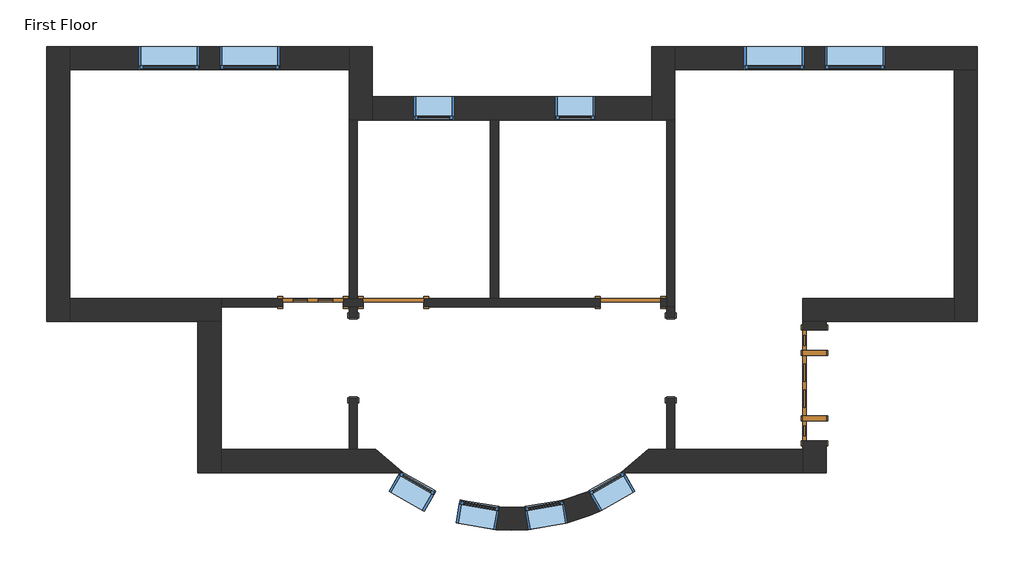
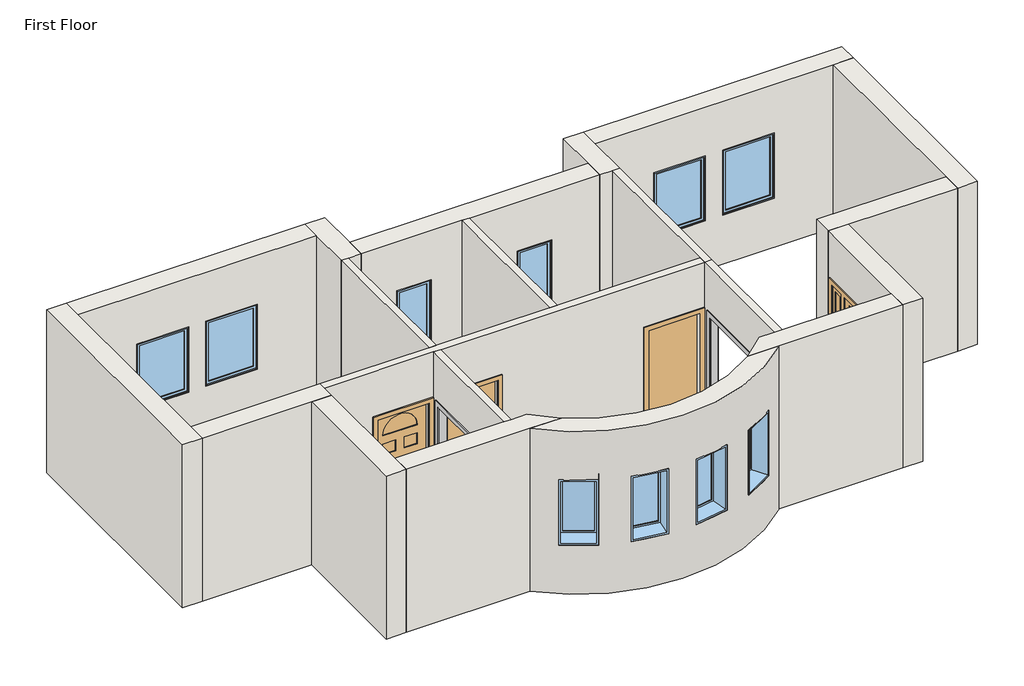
# One storey: 20 walls, 10 windows, 4 doors, 2 proxies.
"""IFC4 building model written with IfcOpenShell, lengths in millimetres."""

from ifc_helpers import new_model, si_unit, frame, origin, origin_with_axes, place, context, project, spatial, polyline, circle_curve, outline, extrude, faceted_brep, transform, mapped, element, save
from ifc_brep_helpers import plane_surface, cylinder_surface, revolved_surface, advanced_brep
from components import proxy_f44482cc, door_2e3b4da2, door_a1797ceb, door_a3eb833a, door_dba5aa2e, window_60baf983, window_ed80354a, window_15c49d37

model = new_model("IFC4")

# Units and contexts
model_context = context("Model", 3, world=origin())
ifc_project = project(units=[si_unit("LENGTHUNIT", "METRE", prefix="MILLI")], contexts=[model_context])

# Site, building, storey
site = spatial("IfcSite", under=ifc_project)
building = spatial("IfcBuilding", under=site)
storey = spatial("IfcBuildingStorey", under=building, Name="First Floor", Elevation=0.0)

# Proxies
placement = place(None, origin())
proxy_shape = proxy_f44482cc(model_context)
element("IfcBuildingElementProxy", 1, Name="Opening-Cased : 48\" x 84\"", ObjectType="Opening-Cased : 48\" x 84\"", at=placement, inside=storey, context=model_context, shape_type="MappedRepresentation", body=[
    mapped(proxy_shape, transform((-732.7404149, 8023.3246014, 0.0), x_axis=(0.0, -1.0, 0.0), y_axis=(1.0, 0.0, 0.0), z_axis=(0.0, 0.0, 1.0))),
])
element("IfcBuildingElementProxy", 2, Name="Opening-Cased : 48\" x 84\"", ObjectType="Opening-Cased : 48\" x 84\"", at=placement, inside=storey, context=model_context, shape_type="MappedRepresentation", body=[
    mapped(proxy_shape, transform((4064.6845851, 8039.7019148, 0.0), x_axis=(0.0, 1.0, 0.0), y_axis=(-1.0, 0.0, 0.0), z_axis=(0.0, 0.0, 1.0))),
])

# Doors
door_shape = door_2e3b4da2(model_context)
element("IfcDoor", 3, ObjectType="Single-Decorative 2 : 36\" x 84\"", at=placement, inside=storey, context=model_context, shape_type="MappedRepresentation", body=[
    mapped(door_shape, transform((-1342.3404149, 8869.7132581, 0.0), x_axis=(1.0, 0.0, 0.0), y_axis=(0.0, 1.0, 0.0), z_axis=(0.0, 0.0, 1.0))),
])
door_2_shape = door_a1797ceb(model_context)
element("IfcDoor", 4, ObjectType="Single-Flush : 36\" x 84\"", at=placement, inside=storey, context=model_context, shape_type="MappedRepresentation", body=[
    mapped(door_2_shape, transform((3455.0845851, 8869.7132581, 0.0), x_axis=(1.0, 0.0, 0.0), y_axis=(0.0, 1.0, 0.0), z_axis=(0.0, 0.0, 1.0))),
])
door_3_shape = door_a3eb833a(model_context)
element("IfcDoor", 5, ObjectType="Single-Flush : 36\" x 84\"", at=placement, inside=storey, context=model_context, shape_type="MappedRepresentation", body=[
    mapped(door_3_shape, transform((-123.1404149, 8869.7132581, 0.0), x_axis=(-1.0, 0.0, 0.0), y_axis=(0.0, -1.0, 0.0), z_axis=(0.0, 0.0, 1.0))),
])
door_4_shape = door_dba5aa2e(model_context)
element("IfcDoor", 6, ObjectType="Single-Raised Panel with Sidelights : 36\" x 84\"", at=placement, inside=storey, context=model_context, shape_type="MappedRepresentation", body=[
    mapped(door_4_shape, transform((6237.9720851, 7614.0007581, 0.0), x_axis=(0.0, -1.0, 0.0), y_axis=(1.0, 0.0, 0.0), z_axis=(0.0, 0.0, 1.0))),
])

# Walls
element("IfcWall", 7, ObjectType="Exterior - Brick on Mtl. Stud", at=placement, inside=storey, context=model_context, shape_type="Brep", body=[
    faceted_brep([(8347.7595851, 12390.7882581, 0.0), (8347.7595851, 8933.2132581, 0.0), (8347.7595851, 8580.7882581, 0.0), (8347.7595851, 8580.7882581, 3048.0), (8347.7595851, 8933.2132581, 3048.0), (8347.7595851, 12390.7882581, 3048.0), (8700.1845851, 12390.7882581, 0.0), (8700.1845851, 12390.7882581, 3048.0), (8700.1845851, 8580.7882581, 3048.0), (8700.1845851, 8580.7882581, 0.0)], [[[0, 1, 2, 3, 4, 5]], [[6, 7, 8, 9]], [[2, 1, 0, 6, 9]], [[5, 4, 3, 8, 7]], [[3, 2, 9, 8]], [[0, 5, 7, 6]]]),
])
element("IfcWall", 8, ObjectType="Exterior - Brick on Mtl. Stud", at=placement, inside=storey, context=model_context, shape_type="Brep", body=[
    faceted_brep([(8347.7595851, 8933.2132581, 0.0), (6061.7595851, 8933.2132581, 0.0), (6061.7595851, 8933.2132581, 3048.0), (8347.7595851, 8933.2132581, 3048.0), (8347.7595851, 8580.7882581, 0.0), (8347.7595851, 8580.7882581, 3048.0), (6414.1845851, 8580.7882581, 3048.0), (6061.7595851, 8580.7882581, 3048.0), (6061.7595851, 8580.7882581, 0.0), (6414.1845851, 8580.7882581, 0.0)], [[[0, 1, 2, 3]], [[4, 5, 6, 7, 8, 9]], [[1, 0, 4, 9, 8]], [[3, 2, 7, 6, 5]], [[2, 1, 8, 7]], [[0, 3, 5, 4]]]),
])
element("IfcWall", 9, ObjectType="Exterior - Brick on Mtl. Stud", at=placement, inside=storey, context=model_context, shape_type="Brep", body=[
    faceted_brep([(6061.7595851, 6775.8007581, 2133.6), (6061.7595851, 6775.8007581, 0.0), (6061.7595851, 6647.2132581, 0.0), (6061.7595851, 6294.7882581, 0.0), (6061.7595851, 6294.7882581, 3048.0), (6061.7595851, 6647.2132581, 3048.0), (6061.7595851, 8580.7882581, 3048.0), (6061.7595851, 8580.7882581, 0.0), (6061.7595851, 8452.2007581, 0.0), (6061.7595851, 8452.2007581, 2133.6), (6414.1845851, 6294.7882581, 0.0), (6414.1845851, 6775.8007581, 0.0), (6414.1845851, 6775.8007581, 2133.6), (6414.1845851, 8452.2007581, 2133.6), (6414.1845851, 8452.2007581, 0.0), (6414.1845851, 8580.7882581, 0.0), (6414.1845851, 8580.7882581, 3048.0), (6414.1845851, 6294.7882581, 3048.0)], [[[0, 1, 2, 3, 4, 5, 6, 7, 8, 9]], [[10, 11, 12, 13, 14, 15, 16, 17]], [[3, 2, 1, 11, 10]], [[8, 7, 15, 14]], [[6, 5, 4, 17, 16]], [[4, 3, 10, 17]], [[7, 6, 16, 15]], [[12, 11, 1, 0]], [[13, 12, 0, 9]], [[14, 13, 9, 8]]]),
])
element("IfcWall", 10, ObjectType="Exterior - Brick on Mtl. Stud", at=placement, inside=storey, context=model_context, shape_type="AdvancedBrep", body=[
    advanced_brep(
    [(6061.7595851, 6647.2132581, 0.0), (4128.1845851, 6647.2132581, 0.0), (4001.1845851, 6647.2132581, 0.0), (3726.3564328, 6647.2132581, 0.0), (3726.3564328, 6647.2132581, 3048.0), (4001.1845851, 6647.2132581, 3048.0), (4128.1845851, 6647.2132581, 3048.0), (6061.7595851, 6647.2132581, 3048.0), (3312.4627349, 6294.7882581, 0.0), (3870.3573191, 6294.7882581, 0.0), (6061.7595851, 6294.7882581, 0.0), (6061.7595851, 6294.7882581, 3048.0), (3870.3573191, 6294.7882581, 3048.0), (3312.4627349, 6294.7882581, 3048.0), (3312.4627349, 6294.7882581, 2133.6), (3361.7509829, 6294.7882581, 2133.6), (3361.7509829, 6294.7882581, 914.4), (3312.4627349, 6294.7882581, 914.4), (3320.3742367, 6300.3443098, 914.4), (3320.3742367, 6300.3443098, 2133.6), (3349.1702511, 6316.8014694, 914.4), (3349.1702511, 6316.8014694, 2133.6)],
    [
        (0, 1),
        (1, 2),
        (2, 3),
        (3, 4),
        (4, 5),
        (5, 6),
        (6, 7),
        (7, 0),
        (8, 9),
        (9, 10),
        (10, 11),
        (11, 12),
        (12, 13),
        (13, 14),
        (14, 15),
        (15, 16),
        (16, 17),
        (17, 8),
        (0, 10),
        (8, 3, circle_curve(frame((1665.9720851, 8647.7081431, 0.0), z_axis=(0.0, 0.0, 1.0), x_axis=(1.0, 0.0, 0.0)), 2871.7875)),
        (4, 13, circle_curve(frame((1665.9720851, 8647.7081431, 3048.0), z_axis=(0.0, 0.0, -1.0), x_axis=(1.0, 0.0, 0.0)), 2871.7875)),
        (11, 7),
        (17, 18, circle_curve(frame((1665.9720851, 8647.7081431, 914.4), z_axis=(0.0, 0.0, 1.0), x_axis=(1.0, 0.0, 0.0)), 2871.7875)),
        (18, 19),
        (19, 14, circle_curve(frame((1665.9720851, 8647.7081431, 2133.6), z_axis=(0.0, 0.0, -1.0), x_axis=(1.0, 0.0, 0.0)), 2871.7875)),
        (20, 21),
        (21, 19),
        (18, 20),
        (16, 20),
        (15, 21),
    ],
    [
        plane_surface(frame((6237.9720851, 6647.2132581, 0.0), z_axis=(0.0, 1.0, 0.0), x_axis=(-1.0, 0.0, 0.0))),
        plane_surface(frame((6237.9720851, 6294.7882581, 0.0), z_axis=(0.0, -1.0, 0.0), x_axis=(1.0, 0.0, 0.0))),
        plane_surface(frame((6237.9720851, 6647.2132581, 0.0), z_axis=(0.0, 0.0, -1.0), x_axis=(0.0, -1.0, 0.0))),
        plane_surface(frame((3799.5720851, 6647.2132581, 3048.0), z_axis=(0.0, 0.0, 1.0), x_axis=(0.0, -1.0, 0.0))),
        revolved_surface(polyline([(4537.7595851, 8647.7081431, 0.0), (4537.7595851, 8647.7081431, 3048.0)]), (1665.9720851, 8647.7081431, 0.0), (0.0, 0.0, -1.0)),
        plane_surface(frame((6061.7595851, 8757.0007581, 0.0), z_axis=(1.0, 0.0, 0.0), x_axis=(0.0, -1.0, 0.0))),
        plane_surface(frame((2819.9073972, 6014.3233852, 2133.6), z_axis=(0.49619108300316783, -0.8682133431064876, 0.0), x_axis=(0.0, 0.0, 1.0))),
        plane_surface(frame((2993.993531, 5709.7151216, 914.4), z_axis=(0.0, 0.0, 1.0000000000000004), x_axis=(-0.4961910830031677, 0.8682133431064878, 0.0))),
        plane_surface(frame((3523.2563849, 6012.1932058, 914.4), z_axis=(-0.8682133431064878, -0.4961910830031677, 0.0), x_axis=(-0.4961910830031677, 0.8682133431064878, 0.0))),
        plane_surface(frame((3523.2563849, 6012.1932058, 2133.6), z_axis=(0.0, 0.0, -1.0000000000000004), x_axis=(-0.4961910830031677, 0.8682133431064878, 0.0))),
    ],
    [
        (0, [[1, 2, 3, 4, 5, 6, 7, 8]]),
        (1, [[9, 10, 11, 12, 13, 14, 15, 16, 17, 18]]),
        (2, [[-3, -2, -1, 19, -10, -9, 20]]),
        (3, [[-7, -6, -5, 21, -13, -12, 22]]),
        (4, [[-4, -20, -18, 23, 24, 25, -14, -21]]),
        (5, [[-8, -22, -11, -19]]),
        (6, [[26, 27, -24, 28]]),
        (7, [[-28, -23, -17, 29]]),
        (8, [[-26, -29, -16, 30]]),
        (9, [[-27, -30, -15, -25]]),
    ],
),
])
element("IfcWall", 11, ObjectType="Exterior - Brick on Mtl. Stud", at=placement, inside=storey, context=model_context, shape_type="Brep", body=[
    faceted_brep([(-5368.2404149, 12743.2132581, 0.0), (-5368.2404149, 8580.7882581, 0.0), (-5368.2404149, 8580.7882581, 3048.0), (-5368.2404149, 12743.2132581, 3048.0), (-5015.8154149, 12743.2132581, 0.0), (-5015.8154149, 12743.2132581, 3048.0), (-5015.8154149, 12390.7882581, 3048.0), (-5015.8154149, 8933.2132581, 3048.0), (-5015.8154149, 8580.7882581, 3048.0), (-5015.8154149, 8580.7882581, 0.0), (-5015.8154149, 8933.2132581, 0.0), (-5015.8154149, 12390.7882581, 0.0)], [[[0, 1, 2, 3]], [[4, 5, 6, 7, 8, 9, 10, 11]], [[1, 0, 4, 11, 10, 9]], [[3, 2, 8, 7, 6, 5]], [[2, 1, 9, 8]], [[0, 3, 5, 4]]]),
])
element("IfcWall", 12, ObjectType="Exterior - Brick on Mtl. Stud", at=placement, inside=storey, context=model_context, shape_type="Brep", body=[
    faceted_brep([(-5015.8154149, 8580.7882581, 0.0), (-3082.2404149, 8580.7882581, 0.0), (-2729.8154149, 8580.7882581, 0.0), (-2729.8154149, 8580.7882581, 3048.0), (-3082.2404149, 8580.7882581, 3048.0), (-5015.8154149, 8580.7882581, 3048.0), (-5015.8154149, 8933.2132581, 0.0), (-5015.8154149, 8933.2132581, 3048.0), (-2729.8154149, 8933.2132581, 3048.0), (-2729.8154149, 8933.2132581, 0.0), (-2729.8154149, 8806.2132581, 0.0), (-2729.8154149, 8806.2132581, 3048.0)], [[[0, 1, 2, 3, 4, 5]], [[6, 7, 8, 9]], [[2, 1, 0, 6, 9, 10]], [[5, 4, 3, 11, 8, 7]], [[3, 2, 10, 9, 8, 11]], [[0, 5, 7, 6]]]),
])
element("IfcWall", 13, ObjectType="Exterior - Brick on Mtl. Stud", at=placement, inside=storey, context=model_context, shape_type="Brep", body=[
    faceted_brep([(-3082.2404149, 8580.7882581, 0.0), (-3082.2404149, 6294.7882581, 0.0), (-3082.2404149, 6294.7882581, 3048.0), (-3082.2404149, 8580.7882581, 3048.0), (-2729.8154149, 8580.7882581, 0.0), (-2729.8154149, 8580.7882581, 3048.0), (-2729.8154149, 6647.2132581, 3048.0), (-2729.8154149, 6294.7882581, 3048.0), (-2729.8154149, 6294.7882581, 0.0), (-2729.8154149, 6647.2132581, 0.0)], [[[0, 1, 2, 3]], [[4, 5, 6, 7, 8, 9]], [[1, 0, 4, 9, 8]], [[3, 2, 7, 6, 5]], [[2, 1, 8, 7]], [[0, 3, 5, 4]]]),
])
element("IfcWall", 14, ObjectType="Exterior - Brick on Mtl. Stud", at=placement, inside=storey, context=model_context, shape_type="AdvancedBrep", body=[
    advanced_brep(
    [(-2729.8154149, 6294.7882581, 0.0), (-538.4131488, 6294.7882581, 0.0), (19.4814354, 6294.7882581, 0.0), (19.4814354, 6294.7882581, 914.4), (-29.8068126, 6294.7882581, 914.4), (-29.8068126, 6294.7882581, 2133.6), (19.4814354, 6294.7882581, 2133.6), (19.4814354, 6294.7882581, 3048.0), (-538.4131488, 6294.7882581, 3048.0), (-2729.8154149, 6294.7882581, 3048.0), (-394.4122625, 6647.2132581, 0.0), (-669.2404149, 6647.2132581, 0.0), (-796.2404149, 6647.2132581, 0.0), (-2729.8154149, 6647.2132581, 0.0), (-2729.8154149, 6647.2132581, 3048.0), (-796.2404149, 6647.2132581, 3048.0), (-669.2404149, 6647.2132581, 3048.0), (-394.4122625, 6647.2132581, 3048.0), (11.5699336, 6300.3443098, 2133.6), (11.5699336, 6300.3443098, 914.4), (-17.2260808, 6316.8014694, 2133.6), (-17.2260808, 6316.8014694, 914.4)],
    [
        (0, 1),
        (1, 2),
        (2, 3),
        (3, 4),
        (4, 5),
        (5, 6),
        (6, 7),
        (7, 8),
        (8, 9),
        (9, 0),
        (10, 11),
        (11, 12),
        (12, 13),
        (13, 14),
        (14, 15),
        (15, 16),
        (16, 17),
        (17, 10),
        (0, 13),
        (10, 2, circle_curve(frame((1665.9720851, 8647.7081431, 0.0), z_axis=(0.0, 0.0, 1.0), x_axis=(1.0, 0.0, 0.0)), 2871.7875)),
        (7, 17, circle_curve(frame((1665.9720851, 8647.7081431, 3048.0), z_axis=(0.0, 0.0, -1.0), x_axis=(1.0, 0.0, 0.0)), 2871.7875)),
        (14, 9),
        (6, 18, circle_curve(frame((1665.9720851, 8647.7081431, 2133.6), z_axis=(0.0, 0.0, -1.0), x_axis=(1.0, 0.0, 0.0)), 2871.7875)),
        (18, 19),
        (19, 3, circle_curve(frame((1665.9720851, 8647.7081431, 914.4), z_axis=(0.0, 0.0, 1.0), x_axis=(1.0, 0.0, 0.0)), 2871.7875)),
        (20, 21),
        (21, 19),
        (18, 20),
        (21, 4),
        (20, 5),
    ],
    [
        plane_surface(frame((-2906.0279149, 6294.7882581, 0.0), z_axis=(0.0, -1.0, 0.0), x_axis=(1.0, 0.0, 0.0))),
        plane_surface(frame((-2906.0279149, 6647.2132581, 0.0), z_axis=(0.0, 1.0, 0.0), x_axis=(-1.0, 0.0, 0.0))),
        plane_surface(frame((-2906.0279149, 6294.7882581, 0.0), z_axis=(0.0, 0.0, -1.0), x_axis=(0.0, 1.0, 0.0))),
        plane_surface(frame((-467.6279149, 6294.7882581, 3048.0), z_axis=(0.0, 0.0, 1.0), x_axis=(0.0, 1.0, 0.0))),
        revolved_surface(polyline([(4537.7595851, 8647.7081431, 0.0), (4537.7595851, 8647.7081431, 3048.0)]), (1665.9720851, 8647.7081431, 0.0), (0.0, 0.0, -1.0)),
        plane_surface(frame((-2729.8154149, 8757.0007581, 0.0), z_axis=(-1.0, 0.0, 0.0), x_axis=(0.0, 1.0, 0.0))),
        plane_surface(frame((512.0367731, 6014.3233852, 2133.6), z_axis=(-0.4961910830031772, -0.8682133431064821, 0.0), x_axis=(0.0, 0.0, -1.0))),
        plane_surface(frame((512.0367731, 6014.3233852, 914.4), z_axis=(0.0, 0.0, 1.0000000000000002), x_axis=(-0.49619108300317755, -0.8682133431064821, 0.0))),
        plane_surface(frame((-17.2260808, 6316.8014694, 914.4), z_axis=(0.8682133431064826, -0.4961910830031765, 0.0), x_axis=(-0.4961910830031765, -0.8682133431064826, 0.0))),
        plane_surface(frame((-17.2260808, 6316.8014694, 2133.6), z_axis=(0.0, 0.0, -1.0), x_axis=(-0.4961910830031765, -0.8682133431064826, 0.0))),
    ],
    [
        (0, [[1, 2, 3, 4, 5, 6, 7, 8, 9, 10]]),
        (1, [[11, 12, 13, 14, 15, 16, 17, 18]]),
        (2, [[-2, -1, 19, -13, -12, -11, 20]]),
        (3, [[-9, -8, 21, -17, -16, -15, 22]]),
        (4, [[-20, -18, -21, -7, 23, 24, 25, -3]]),
        (5, [[-10, -22, -14, -19]]),
        (6, [[26, 27, -24, 28]]),
        (7, [[-27, 29, -4, -25]]),
        (8, [[-26, 30, -5, -29]]),
        (9, [[-28, -23, -6, -30]]),
    ],
),
])
element("IfcWall", 15, ObjectType="Exterior - Brick on Mtl. Stud", at=placement, inside=storey, context=model_context, shape_type="SweptSolid", body=[
    extrude(outline(polyline([(0.0, -5015.8154149), (0.0, -796.2404149), (3048.0, -796.2404149), (3048.0, -5015.8154149), (0.0, -5015.8154149)]), holes=[polyline([(2133.6, -3972.8279149), (2133.6, -3058.4279149), (914.4, -3058.4279149), (914.4, -3972.8279149), (2133.6, -3972.8279149)]), polyline([(2133.6, -2753.6279149), (2133.6, -1839.2279149), (914.4, -1839.2279149), (914.4, -2753.6279149), (2133.6, -2753.6279149)])]), frame((0.0, 12390.7882581, 0.0), z_axis=(0.0, 1.0, 0.0), x_axis=(0.0, 0.0, 1.0)), (0.0, 0.0, 1.0), 352.425),
])
element("IfcWall", 16, ObjectType="Exterior - Brick on Mtl. Stud", at=placement, inside=storey, context=model_context, shape_type="Brep", body=[
    faceted_brep([(-796.2404149, 12743.2132581, 0.0), (-796.2404149, 12390.7882581, 0.0), (-796.2404149, 11628.7882581, 0.0), (-796.2404149, 11628.7882581, 3048.0), (-796.2404149, 12390.7882581, 3048.0), (-796.2404149, 12743.2132581, 3048.0), (-443.8154149, 12743.2132581, 0.0), (-443.8154149, 12743.2132581, 3048.0), (-443.8154149, 11981.2132581, 3048.0), (-443.8154149, 11628.7882581, 3048.0), (-443.8154149, 11628.7882581, 0.0), (-443.8154149, 11981.2132581, 0.0), (-669.2404149, 11628.7882581, 0.0), (-669.2404149, 11628.7882581, 3048.0)], [[[0, 1, 2, 3, 4, 5]], [[6, 7, 8, 9, 10, 11]], [[2, 1, 0, 6, 11, 10, 12]], [[5, 4, 3, 13, 9, 8, 7]], [[0, 5, 7, 6]], [[3, 2, 12, 10, 9, 13]]]),
])
element("IfcWall", 17, ObjectType="Exterior - Brick on Mtl. Stud", at=placement, inside=storey, context=model_context, shape_type="Brep", body=[
    faceted_brep([(-443.8154149, 11628.7882581, 0.0), (1337.3595851, 11628.7882581, 0.0), (1464.3595851, 11628.7882581, 0.0), (3775.7595851, 11628.7882581, 0.0), (3775.7595851, 11628.7882581, 3048.0), (1464.3595851, 11628.7882581, 3048.0), (1337.3595851, 11628.7882581, 3048.0), (-443.8154149, 11628.7882581, 3048.0), (2315.2595851, 11628.7882581, 2133.6), (2924.8595851, 11628.7882581, 2133.6), (2924.8595851, 11628.7882581, 914.4), (2315.2595851, 11628.7882581, 914.4), (181.6595851, 11628.7882581, 2133.6), (791.2595851, 11628.7882581, 2133.6), (791.2595851, 11628.7882581, 914.4), (181.6595851, 11628.7882581, 914.4), (-443.8154149, 11981.2132581, 0.0), (-443.8154149, 11981.2132581, 3048.0), (3775.7595851, 11981.2132581, 3048.0), (3775.7595851, 11981.2132581, 0.0), (2315.2595851, 11981.2132581, 2133.6), (2315.2595851, 11981.2132581, 914.4), (2924.8595851, 11981.2132581, 914.4), (2924.8595851, 11981.2132581, 2133.6), (181.6595851, 11981.2132581, 2133.6), (181.6595851, 11981.2132581, 914.4), (791.2595851, 11981.2132581, 914.4), (791.2595851, 11981.2132581, 2133.6)], [[[0, 1, 2, 3, 4, 5, 6, 7], [8, 9, 10, 11], [12, 13, 14, 15]], [[16, 17, 18, 19], [20, 21, 22, 23], [24, 25, 26, 27]], [[3, 2, 1, 0, 16, 19]], [[7, 6, 5, 4, 18, 17]], [[0, 7, 17, 16]], [[4, 3, 19, 18]], [[21, 20, 8, 11]], [[22, 21, 11, 10]], [[23, 22, 10, 9]], [[20, 23, 9, 8]], [[25, 24, 12, 15]], [[26, 25, 15, 14]], [[27, 26, 14, 13]], [[24, 27, 13, 12]]]),
])
element("IfcWall", 18, ObjectType="Exterior - Brick on Mtl. Stud", at=placement, inside=storey, context=model_context, shape_type="Brep", body=[
    faceted_brep([(4128.1845851, 11628.7882581, 0.0), (4128.1845851, 12390.7882581, 0.0), (4128.1845851, 12743.2132581, 0.0), (4128.1845851, 12743.2132581, 3048.0), (4128.1845851, 12390.7882581, 3048.0), (4128.1845851, 11628.7882581, 3048.0), (3775.7595851, 11628.7882581, 0.0), (3775.7595851, 11628.7882581, 3048.0), (3775.7595851, 11981.2132581, 3048.0), (3775.7595851, 12743.2132581, 3048.0), (3775.7595851, 12743.2132581, 0.0), (3775.7595851, 11981.2132581, 0.0), (4001.1845851, 11628.7882581, 0.0), (4001.1845851, 11628.7882581, 3048.0)], [[[0, 1, 2, 3, 4, 5]], [[6, 7, 8, 9, 10, 11]], [[2, 1, 0, 12, 6, 11, 10]], [[5, 4, 3, 9, 8, 7, 13]], [[0, 5, 13, 7, 6, 12]], [[3, 2, 10, 9]]]),
])
element("IfcWall", 19, ObjectType="Exterior - Brick on Mtl. Stud", at=placement, inside=storey, context=model_context, shape_type="Brep", body=[
    faceted_brep([(4128.1845851, 12390.7882581, 0.0), (8347.7595851, 12390.7882581, 0.0), (8700.1845851, 12390.7882581, 0.0), (8700.1845851, 12390.7882581, 3048.0), (8347.7595851, 12390.7882581, 3048.0), (4128.1845851, 12390.7882581, 3048.0), (6390.3720851, 12390.7882581, 2133.6), (7304.7720851, 12390.7882581, 2133.6), (7304.7720851, 12390.7882581, 914.4), (6390.3720851, 12390.7882581, 914.4), (5171.1720851, 12390.7882581, 2133.6), (6085.5720851, 12390.7882581, 2133.6), (6085.5720851, 12390.7882581, 914.4), (5171.1720851, 12390.7882581, 914.4), (4128.1845851, 12743.2132581, 0.0), (4128.1845851, 12743.2132581, 3048.0), (8700.1845851, 12743.2132581, 3048.0), (8700.1845851, 12743.2132581, 0.0), (6390.3720851, 12743.2132581, 2133.6), (6390.3720851, 12743.2132581, 914.4), (7304.7720851, 12743.2132581, 914.4), (7304.7720851, 12743.2132581, 2133.6), (5171.1720851, 12743.2132581, 2133.6), (5171.1720851, 12743.2132581, 914.4), (6085.5720851, 12743.2132581, 914.4), (6085.5720851, 12743.2132581, 2133.6)], [[[0, 1, 2, 3, 4, 5], [6, 7, 8, 9], [10, 11, 12, 13]], [[14, 15, 16, 17], [18, 19, 20, 21], [22, 23, 24, 25]], [[2, 1, 0, 14, 17]], [[5, 4, 3, 16, 15]], [[3, 2, 17, 16]], [[0, 5, 15, 14]], [[19, 18, 6, 9]], [[20, 19, 9, 8]], [[21, 20, 8, 7]], [[18, 21, 7, 6]], [[23, 22, 10, 13]], [[24, 23, 13, 12]], [[25, 24, 12, 11]], [[22, 25, 11, 10]]]),
])
element("IfcWall", 20, ObjectType="Exterior - Brick on Mtl. Stud", at=placement, inside=storey, context=model_context, shape_type="AdvancedBrep", body=[
    advanced_brep(
    [(3312.4627349, 6294.7882581, 3048.0), (19.4814354, 6294.7882581, 3048.0), (-538.4131488, 6294.7882581, 3048.0), (3870.3573191, 6294.7882581, 3048.0), (19.4814354, 6294.7882581, 0.0), (3312.4627349, 6294.7882581, 0.0), (3870.3573191, 6294.7882581, 0.0), (-538.4131488, 6294.7882581, 0.0), (3312.4627349, 6294.7882581, 2133.6), (2818.2473245, 6017.2281075, 2133.6), (2818.2473245, 6017.2281075, 914.4), (3312.4627349, 6294.7882581, 914.4), (19.4814354, 6294.7882581, 914.4), (513.6968458, 6017.2281075, 914.4), (513.6968458, 6017.2281075, 2133.6), (19.4814354, 6294.7882581, 2133.6), (1481.667639, 5781.8408545, 914.4), (1481.667639, 5781.8408545, 2133.6), (880.9128086, 5885.3096604, 2133.6), (880.9128086, 5885.3096604, 914.4), (1850.2765313, 5781.8408545, 2133.6), (1850.2765313, 5781.8408545, 914.4), (2451.0313617, 5885.3096604, 914.4), (2451.0313617, 5885.3096604, 2133.6), (337.9427329, 5709.7012873, 2133.6), (337.9427329, 5709.7012873, 914.4), (-191.320121, 6012.1793715, 914.4), (-191.320121, 6012.1793715, 2133.6), (1421.5473554, 5432.7738053, 2133.6), (1421.5473554, 5432.7738053, 914.4), (820.792525, 5536.2426112, 914.4), (820.792525, 5536.2426112, 2133.6), (2994.0014374, 5709.7012873, 914.4), (2994.0014374, 5709.7012873, 2133.6), (3523.2642913, 6012.1793715, 2133.6), (3523.2642913, 6012.1793715, 914.4), (1910.3968149, 5432.7738053, 2133.6), (2511.1516453, 5536.2426112, 2133.6), (2511.1516453, 5536.2426112, 914.4), (1910.3968149, 5432.7738053, 914.4), (3361.7509829, 6294.7882581, 914.4), (3361.7509829, 6294.7882581, 2133.6), (-29.8068126, 6294.7882581, 2133.6), (-29.8068126, 6294.7882581, 914.4)],
    [
        (0, 1, circle_curve(frame((1665.9720851, 8647.7081431, 3048.0), z_axis=(0.0, 0.0, -1.0), x_axis=(1.0, 0.0, 0.0)), 2871.7875)),
        (1, 2),
        (2, 3, circle_curve(frame((1665.9720851, 8647.7081431, 3048.0), z_axis=(0.0, 0.0, 1.0), x_axis=(1.0, 0.0, 0.0)), 3224.2125)),
        (3, 0),
        (4, 5, circle_curve(frame((1665.9720851, 8647.7081431, 0.0), z_axis=(0.0, 0.0, 1.0), x_axis=(1.0, 0.0, 0.0)), 2871.7875)),
        (5, 6),
        (6, 7, circle_curve(frame((1665.9720851, 8647.7081431, 0.0), z_axis=(0.0, 0.0, -1.0), x_axis=(1.0, 0.0, 0.0)), 3224.2125)),
        (7, 4),
        (0, 8),
        (8, 9, circle_curve(frame((1665.9720851, 8647.7081431, 2133.6), z_axis=(0.0, 0.0, -1.0), x_axis=(1.0, 0.0, 0.0)), 2871.7875)),
        (9, 10),
        (10, 11, circle_curve(frame((1665.9720851, 8647.7081431, 914.4), z_axis=(0.0, 0.0, 1.0), x_axis=(1.0, 0.0, 0.0)), 2871.7875)),
        (11, 5),
        (4, 12),
        (12, 13, circle_curve(frame((1665.9720851, 8647.7081431, 914.4), z_axis=(0.0, 0.0, 1.0), x_axis=(1.0, 0.0, 0.0)), 2871.7875)),
        (13, 14),
        (14, 15, circle_curve(frame((1665.9720851, 8647.7081431, 2133.6), z_axis=(0.0, 0.0, -1.0), x_axis=(1.0, 0.0, 0.0)), 2871.7875)),
        (15, 1),
        (16, 17),
        (17, 18, circle_curve(frame((1665.9720851, 8647.7081431, 2133.6), z_axis=(0.0, 0.0, -1.0), x_axis=(1.0, 0.0, 0.0)), 2871.7875)),
        (18, 19),
        (19, 16, circle_curve(frame((1665.9720851, 8647.7081431, 914.4), z_axis=(0.0, 0.0, 1.0), x_axis=(1.0, 0.0, 0.0)), 2871.7875)),
        (20, 21),
        (21, 22, circle_curve(frame((1665.9720851, 8647.7081431, 914.4), z_axis=(0.0, 0.0, 1.0), x_axis=(1.0, 0.0, 0.0)), 2871.7875)),
        (22, 23),
        (23, 20, circle_curve(frame((1665.9720851, 8647.7081431, 2133.6), z_axis=(0.0, 0.0, -1.0), x_axis=(1.0, 0.0, 0.0)), 2871.7875)),
        (2, 7),
        (6, 3),
        (24, 25),
        (25, 26, circle_curve(frame((1665.9720851, 8647.7081431, 914.4), z_axis=(0.0, 0.0, -1.0), x_axis=(1.0, 0.0, 0.0)), 3224.2125)),
        (26, 27),
        (27, 24, circle_curve(frame((1665.9720851, 8647.7081431, 2133.6), z_axis=(0.0, 0.0, 1.0), x_axis=(1.0, 0.0, 0.0)), 3224.2125)),
        (28, 29),
        (29, 30, circle_curve(frame((1665.9720851, 8647.7081431, 914.4), z_axis=(0.0, 0.0, -1.0), x_axis=(1.0, 0.0, 0.0)), 3224.2125)),
        (30, 31),
        (31, 28, circle_curve(frame((1665.9720851, 8647.7081431, 2133.6), z_axis=(0.0, 0.0, 1.0), x_axis=(1.0, 0.0, 0.0)), 3224.2125)),
        (32, 33),
        (33, 34, circle_curve(frame((1665.9720851, 8647.7081431, 2133.6), z_axis=(0.0, 0.0, 1.0), x_axis=(1.0, 0.0, 0.0)), 3224.2125)),
        (34, 35),
        (35, 32, circle_curve(frame((1665.9720851, 8647.7081431, 914.4), z_axis=(0.0, 0.0, -1.0), x_axis=(1.0, 0.0, 0.0)), 3224.2125)),
        (36, 37, circle_curve(frame((1665.9720851, 8647.7081431, 2133.6), z_axis=(0.0, 0.0, 1.0), x_axis=(1.0, 0.0, 0.0)), 3224.2125)),
        (37, 38),
        (38, 39, circle_curve(frame((1665.9720851, 8647.7081431, 914.4), z_axis=(0.0, 0.0, -1.0), x_axis=(1.0, 0.0, 0.0)), 3224.2125)),
        (39, 36),
        (11, 40),
        (40, 41),
        (41, 8),
        (15, 42),
        (42, 43),
        (43, 12),
        (24, 14),
        (13, 25),
        (43, 26),
        (42, 27),
        (28, 17),
        (16, 29),
        (19, 30),
        (18, 31),
        (9, 33),
        (32, 10),
        (35, 40),
        (34, 41),
        (20, 36),
        (39, 21),
        (38, 22),
        (37, 23),
    ],
    [
        plane_surface(frame((4537.7595851, 8647.7081431, 3048.0), z_axis=(0.0, 0.0, 1.0), x_axis=(0.0, -1.0, 0.0))),
        plane_surface(frame((4537.7595851, 8647.7081431, 0.0), z_axis=(0.0, 0.0, -1.0), x_axis=(0.0, 1.0, 0.0))),
        revolved_surface(polyline([(4537.7595851, 8647.7081431, 0.0), (4537.7595851, 8647.7081431, 3048.0)]), (1665.9720851, 8647.7081431, 0.0), (0.0, 0.0, -1.0)),
        cylinder_surface(frame((1665.9720851, 8647.7081431, 0.0), z_axis=(0.0, 0.0, 1.0), x_axis=(1.0, 0.0, 0.0)), 3224.2125),
        plane_surface(frame((6237.9720851, 6294.7882581, 0.0), z_axis=(0.0, 1.0, 0.0), x_axis=(1.0, 0.0, 0.0))),
        plane_surface(frame((-2906.0279149, 6294.7882581, 0.0), z_axis=(0.0, 1.0, 0.0), x_axis=(1.0, 0.0, 0.0))),
        plane_surface(frame((1095.0219139, 7034.4051549, 2133.6), z_axis=(-0.8682133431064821, 0.49619108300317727, 0.0), x_axis=(-0.49619108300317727, -0.8682133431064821, 0.0))),
        plane_surface(frame((1095.0219139, 7034.4051549, 914.4), z_axis=(0.0, 0.0, 1.0), x_axis=(-0.4961910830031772, -0.8682133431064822, 0.0))),
        plane_surface(frame((565.7590599, 7336.8832391, 914.4), z_axis=(0.8682133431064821, -0.4961910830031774, 0.0), x_axis=(-0.4961910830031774, -0.8682133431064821, 0.0))),
        plane_surface(frame((565.7590599, 7336.8832391, 2133.6), z_axis=(0.0, 0.0, -1.0), x_axis=(-0.4961910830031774, -0.8682133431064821, 0.0))),
        plane_surface(frame((1421.5473554, 5432.7738053, 2133.6), z_axis=(-0.9854902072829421, 0.16973229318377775, 0.0), x_axis=(0.16973229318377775, 0.9854902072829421, 0.0))),
        plane_surface(frame((1421.5473554, 5432.7738053, 914.4), z_axis=(0.0, 0.0, 1.0), x_axis=(0.16973229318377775, 0.9854902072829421, 0.0))),
        plane_surface(frame((820.792525, 5536.2426112, 914.4), z_axis=(0.9854902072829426, -0.16973229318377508, 0.0), x_axis=(0.16973229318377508, 0.9854902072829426, 0.0))),
        plane_surface(frame((820.792525, 5536.2426112, 2133.6), z_axis=(0.0, 0.0, -1.0), x_axis=(0.16973229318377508, 0.9854902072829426, 0.0))),
        plane_surface(frame((3749.3126774, 4388.0908851, 2133.6), z_axis=(0.8682133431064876, 0.4961910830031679, 0.0), x_axis=(-0.4961910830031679, 0.8682133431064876, 0.0))),
        plane_surface(frame((3749.3126774, 4388.0908851, 914.4), z_axis=(0.0, 0.0, 1.0000000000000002), x_axis=(-0.4961910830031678, 0.8682133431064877, 0.0))),
        plane_surface(frame((4278.5755314, 4690.5689693, 914.4), z_axis=(-0.8682133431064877, -0.4961910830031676, 0.0), x_axis=(-0.4961910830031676, 0.8682133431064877, 0.0))),
        plane_surface(frame((4278.5755314, 4690.5689693, 2133.6), z_axis=(0.0, 0.0, -1.0), x_axis=(-0.4961910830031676, 0.8682133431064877, 0.0))),
        plane_surface(frame((1850.2765313, 5781.8408545, 2133.6), z_axis=(0.9854902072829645, 0.1697322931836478, 0.0), x_axis=(0.1697322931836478, -0.9854902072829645, 0.0))),
        plane_surface(frame((1850.2765313, 5781.8408545, 914.4), z_axis=(0.0, 0.0, 1.0000000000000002), x_axis=(0.1697322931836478, -0.9854902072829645, 0.0))),
        plane_surface(frame((2451.0313617, 5885.3096604, 914.4), z_axis=(-0.9854902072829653, -0.16973229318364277, 0.0), x_axis=(0.16973229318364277, -0.9854902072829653, 0.0))),
        plane_surface(frame((2451.0313617, 5885.3096604, 2133.6), z_axis=(0.0, 0.0, -1.0), x_axis=(0.16973229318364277, -0.9854902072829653, 0.0))),
    ],
    [
        (0, [[1, 2, 3, 4]]),
        (1, [[5, 6, 7, 8]]),
        (2, [[-1, 9, 10, 11, 12, 13, -5, 14, 15, 16, 17, 18], [19, 20, 21, 22], [23, 24, 25, 26]]),
        (3, [[-3, 27, -7, 28], [29, 30, 31, 32], [33, 34, 35, 36], [37, 38, 39, 40], [41, 42, 43, 44]]),
        (4, [[-4, -28, -6, -13, 45, 46, 47, -9]]),
        (5, [[-2, -18, 48, 49, 50, -14, -8, -27]]),
        (6, [[51, -16, 52, -29]]),
        (7, [[-52, -15, -50, 53, -30]]),
        (8, [[-53, -49, 54, -31]]),
        (9, [[-51, -32, -54, -48, -17]]),
        (10, [[-33, 55, -19, 56]]),
        (11, [[-34, -56, -22, 57]]),
        (12, [[-35, -57, -21, 58]]),
        (13, [[-36, -58, -20, -55]]),
        (14, [[59, -37, 60, -11]]),
        (15, [[-60, -40, 61, -45, -12]]),
        (16, [[-61, -39, 62, -46]]),
        (17, [[-59, -10, -47, -62, -38]]),
        (18, [[-23, 63, -44, 64]]),
        (19, [[-24, -64, -43, 65]]),
        (20, [[-25, -65, -42, 66]]),
        (21, [[-26, -66, -41, -63]]),
    ],
),
])
element("IfcWall", 21, ObjectType="Interior - 5\" Partition (2-hr)", at=placement, inside=storey, context=model_context, shape_type="Brep", body=[
    faceted_brep([(4001.1845851, 11628.7882581, 0.0), (4001.1845851, 8933.2132581, 0.0), (4001.1845851, 8806.2132581, 0.0), (4001.1845851, 8806.2132581, 3048.0), (4001.1845851, 8933.2132581, 3048.0), (4001.1845851, 11628.7882581, 3048.0), (4128.1845851, 11628.7882581, 0.0), (4128.1845851, 11628.7882581, 3048.0), (4128.1845851, 8806.2132581, 3048.0), (4128.1845851, 8806.2132581, 0.0)], [[[0, 1, 2, 3, 4, 5]], [[6, 7, 8, 9]], [[2, 1, 0, 6, 9]], [[5, 4, 3, 8, 7]], [[3, 2, 9, 8]], [[0, 5, 7, 6]]]),
])
element("IfcWall", 22, ObjectType="Interior - 5\" Partition (2-hr)", at=placement, inside=storey, context=model_context, shape_type="Brep", body=[
    faceted_brep([(-885.1404149, 8806.2132581, 2133.6), (-885.1404149, 8806.2132581, 0.0), (-796.2404149, 8806.2132581, 0.0), (-669.2404149, 8806.2132581, 0.0), (-580.3404149, 8806.2132581, 0.0), (-580.3404149, 8806.2132581, 2133.6), (334.0595851, 8806.2132581, 2133.6), (334.0595851, 8806.2132581, 0.0), (2997.8845851, 8806.2132581, 0.0), (2997.8845851, 8806.2132581, 2133.6), (3912.2845851, 8806.2132581, 2133.6), (3912.2845851, 8806.2132581, 0.0), (4001.1845851, 8806.2132581, 0.0), (4001.1845851, 8806.2132581, 3048.0), (-669.2404149, 8806.2132581, 3048.0), (-796.2404149, 8806.2132581, 3048.0), (-2729.8154149, 8806.2132581, 3048.0), (-2729.8154149, 8806.2132581, 0.0), (-1799.5404149, 8806.2132581, 0.0), (-1799.5404149, 8806.2132581, 2133.6), (-580.3404149, 8933.2132581, 0.0), (-669.2404149, 8933.2132581, 0.0), (-796.2404149, 8933.2132581, 0.0), (-885.1404149, 8933.2132581, 0.0), (-885.1404149, 8933.2132581, 2133.6), (-1799.5404149, 8933.2132581, 2133.6), (-1799.5404149, 8933.2132581, 0.0), (-2729.8154149, 8933.2132581, 0.0), (-2729.8154149, 8933.2132581, 3048.0), (-796.2404149, 8933.2132581, 3048.0), (-669.2404149, 8933.2132581, 3048.0), (1337.3595851, 8933.2132581, 3048.0), (1464.3595851, 8933.2132581, 3048.0), (4001.1845851, 8933.2132581, 3048.0), (4001.1845851, 8933.2132581, 0.0), (3912.2845851, 8933.2132581, 0.0), (3912.2845851, 8933.2132581, 2133.6), (2997.8845851, 8933.2132581, 2133.6), (2997.8845851, 8933.2132581, 0.0), (1464.3595851, 8933.2132581, 0.0), (1337.3595851, 8933.2132581, 0.0), (334.0595851, 8933.2132581, 0.0), (334.0595851, 8933.2132581, 2133.6), (-580.3404149, 8933.2132581, 2133.6)], [[[0, 1, 2, 3, 4, 5, 6, 7, 8, 9, 10, 11, 12, 13, 14, 15, 16, 17, 18, 19]], [[20, 21, 22, 23, 24, 25, 26, 27, 28, 29, 30, 31, 32, 33, 34, 35, 36, 37, 38, 39, 40, 41, 42, 43]], [[12, 11, 35, 34]], [[4, 3, 2, 1, 23, 22, 21, 20]], [[41, 40, 39, 38, 8, 7]], [[18, 17, 27, 26]], [[16, 15, 14, 13, 33, 32, 31, 30, 29, 28]], [[17, 16, 28, 27]], [[13, 12, 34, 33]], [[36, 35, 11, 10]], [[37, 36, 10, 9]], [[38, 37, 9, 8]], [[5, 4, 20, 43]], [[6, 5, 43, 42]], [[7, 6, 42, 41]], [[24, 23, 1, 0]], [[25, 24, 0, 19]], [[26, 25, 19, 18]]]),
])
element("IfcWall", 23, ObjectType="Interior - 5\" Partition (2-hr)", at=placement, inside=storey, context=model_context, shape_type="SweptSolid", body=[
    extrude(outline(polyline([(-796.2404149, 8933.2132581), (-796.2404149, 11628.7882581), (-669.2404149, 11628.7882581), (-669.2404149, 8933.2132581), (-796.2404149, 8933.2132581)])), origin_with_axes(), (0.0, 0.0, 1.0), 3048.0),
])
element("IfcWall", 24, ObjectType="Interior - 5\" Partition (2-hr)", at=placement, inside=storey, context=model_context, shape_type="SweptSolid", body=[
    extrude(outline(polyline([(1464.3595851, 11628.7882581), (1464.3595851, 8933.2132581), (1337.3595851, 8933.2132581), (1337.3595851, 11628.7882581), (1464.3595851, 11628.7882581)])), origin_with_axes(), (0.0, 0.0, 1.0), 3048.0),
])
element("IfcWall", 25, ObjectType="Interior - 5\" Partition (2-hr)", at=placement, inside=storey, context=model_context, shape_type="SweptSolid", body=[
    extrude(outline(polyline([(7421.9132581, 2133.6), (7421.9132581, 0.0), (6647.2132581, 0.0), (6647.2132581, 3048.0), (8806.2132581, 3048.0), (8806.2132581, 0.0), (8641.1132581, 0.0), (8641.1132581, 2133.6), (7421.9132581, 2133.6)])), frame((-796.2404149, 0.0, 0.0), z_axis=(1.0, 0.0, 0.0), x_axis=(0.0, 1.0, 0.0)), (0.0, 0.0, 1.0), 127.0),
])
element("IfcWall", 26, ObjectType="Interior - 5\" Partition (2-hr)", at=placement, inside=storey, context=model_context, shape_type="SweptSolid", body=[
    extrude(outline(polyline([(8806.2132581, 0.0), (8641.1132581, 0.0), (8641.1132581, 2133.6), (7421.9132581, 2133.6), (7421.9132581, 0.0), (6647.2132581, 0.0), (6647.2132581, 3048.0), (8806.2132581, 3048.0), (8806.2132581, 0.0)])), frame((4001.1845851, 0.0, 0.0), z_axis=(1.0, 0.0, 0.0), x_axis=(0.0, 1.0, 0.0)), (0.0, 0.0, 1.0), 127.0),
])

# Windows
window_shape = window_60baf983(model_context)
element("IfcWindow", 27, ObjectType="Fixed : 24\" x 48\"", at=placement, inside=storey, context=model_context, shape_type="MappedRepresentation", body=[
    mapped(window_shape, transform((2581.9595851, 11805.0007581, 0.0), x_axis=(-0.9999999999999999, 0.0, 0.0), y_axis=(0.0, -0.9999999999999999, 0.0), z_axis=(0.0, 0.0, 1.0))),
])
element("IfcWindow", 28, ObjectType="Fixed : 24\" x 48\"", at=placement, inside=storey, context=model_context, shape_type="MappedRepresentation", body=[
    mapped(window_shape, transform((448.3595851, 11805.0007581, 0.0), x_axis=(-0.9999999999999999, 0.0, 0.0), y_axis=(0.0, -0.9999999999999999, 0.0), z_axis=(0.0, 0.0, 1.0))),
])
element("IfcWindow", 29, ObjectType="Fixed : 24\" x 48\"", at=placement, inside=storey, context=model_context, shape_type="MappedRepresentation", body=[
    mapped(window_shape, transform((194.709276, 5996.5722256, 0.0), x_axis=(0.8682133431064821, -0.4961910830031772, 0.0), y_axis=(0.4961910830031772, 0.8682133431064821, 0.0), z_axis=(0.0, 0.0, 1.0))),
])
element("IfcWindow", 30, ObjectType="Fixed : 24\" x 48\"", at=placement, inside=storey, context=model_context, shape_type="MappedRepresentation", body=[
    mapped(window_shape, transform((1188.928449, 5653.4527639, 0.0), x_axis=(0.9854902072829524, -0.16973229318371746, 0.0), y_axis=(0.16973229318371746, 0.9854902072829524, 0.0), z_axis=(0.0, 0.0, 1.0))),
])
window_2_shape = window_ed80354a(model_context)
element("IfcWindow", 31, ObjectType="Fixed : 24\" x 48\"", at=placement, inside=storey, context=model_context, shape_type="MappedRepresentation", body=[
    mapped(window_2_shape, transform((3137.2348943, 5996.5722256, 0.0), x_axis=(-0.8682133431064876, -0.49619108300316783, 0.0), y_axis=(0.49619108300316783, -0.8682133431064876, 0.0), z_axis=(0.0, 0.0, 1.0))),
])
element("IfcWindow", 32, ObjectType="Fixed : 24\" x 48\"", at=placement, inside=storey, context=model_context, shape_type="MappedRepresentation", body=[
    mapped(window_2_shape, transform((2143.0157213, 5653.4527639, 0.0), x_axis=(-0.9854902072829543, -0.1697322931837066, 0.0), y_axis=(0.1697322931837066, -0.9854902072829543, 0.0), z_axis=(0.0, 0.0, 1.0))),
])
window_3_shape = window_15c49d37(model_context)
element("IfcWindow", 33, ObjectType="Fixed : 36\" x 48\"", at=placement, inside=storey, context=model_context, shape_type="MappedRepresentation", body=[
    mapped(window_3_shape, transform((-3553.7279149, 12567.0007581, 0.0), x_axis=(-1.0, 0.0, 0.0), y_axis=(0.0, -1.0, 0.0), z_axis=(0.0, 0.0, 1.0))),
])
element("IfcWindow", 34, ObjectType="Fixed : 36\" x 48\"", at=placement, inside=storey, context=model_context, shape_type="MappedRepresentation", body=[
    mapped(window_3_shape, transform((-2334.5279149, 12567.0007581, 0.0), x_axis=(-1.0, 0.0, 0.0), y_axis=(0.0, -1.0, 0.0), z_axis=(0.0, 0.0, 1.0))),
])
element("IfcWindow", 35, ObjectType="Fixed : 36\" x 48\"", at=placement, inside=storey, context=model_context, shape_type="MappedRepresentation", body=[
    mapped(window_3_shape, transform((6809.4720851, 12567.0007581, 0.0), x_axis=(-1.0, 0.0, 0.0), y_axis=(0.0, -1.0, 0.0), z_axis=(0.0, 0.0, 1.0))),
])
element("IfcWindow", 36, ObjectType="Fixed : 36\" x 48\"", at=placement, inside=storey, context=model_context, shape_type="MappedRepresentation", body=[
    mapped(window_3_shape, transform((5590.2720851, 12567.0007581, 0.0), x_axis=(-1.0, 0.0, 0.0), y_axis=(0.0, -1.0, 0.0), z_axis=(0.0, 0.0, 1.0))),
])

save(model, "model.ifc")
